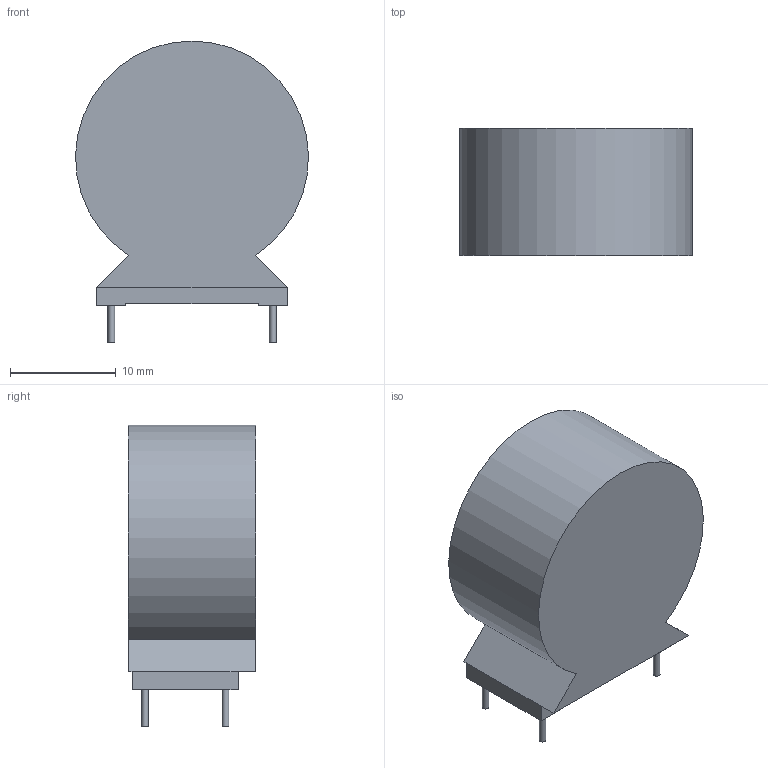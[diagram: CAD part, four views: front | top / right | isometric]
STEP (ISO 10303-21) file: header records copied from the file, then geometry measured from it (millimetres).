
FILE_DESCRIPTION(/* description */ (''),/* implementation_level */ '2;1');
FILE_NAME(/* name */ 'F:\Done\2016\产品3D模拟 新型号\修改针径\新建文件夹\6131-X204\6131-X204 3D Model.stp',/* time_stamp */ '2016-07-12T12:01:16+08:00',/* author */ ('CN000562'),/* organization */ (''),/* preprocessor_version */ 'ST-DEVELOPER v16.5',/* originating_system */ 'Autodesk Inventor 2017',/* authorisation */ '');
FILE_SCHEMA (('AUTOMOTIVE_DESIGN { 1 0 10303 214 3 1 1 }'));
Length unit declared in the file: millimetre
Products named in the file (1): 零件1
Bounding box: 21.99 x 12 x 28.5 mm (x, y, z)
Volume: 5224.6 mm3; surface area: 1943.1 mm2
Topology: 1 solids, 1 shells, 24 faces, 50 edges, 32 vertices
Faces by surface type: plane 19, cylinder 5
Full cylindrical faces by diameter (mm): 0.63 x4
Entity records: 642 total; most frequent: DIRECTION 106, CARTESIAN_POINT 103, ORIENTED_EDGE 92, EDGE_CURVE 46, LINE 36, VECTOR 36, AXIS2_PLACEMENT_3D 35, EDGE_LOOP 32
